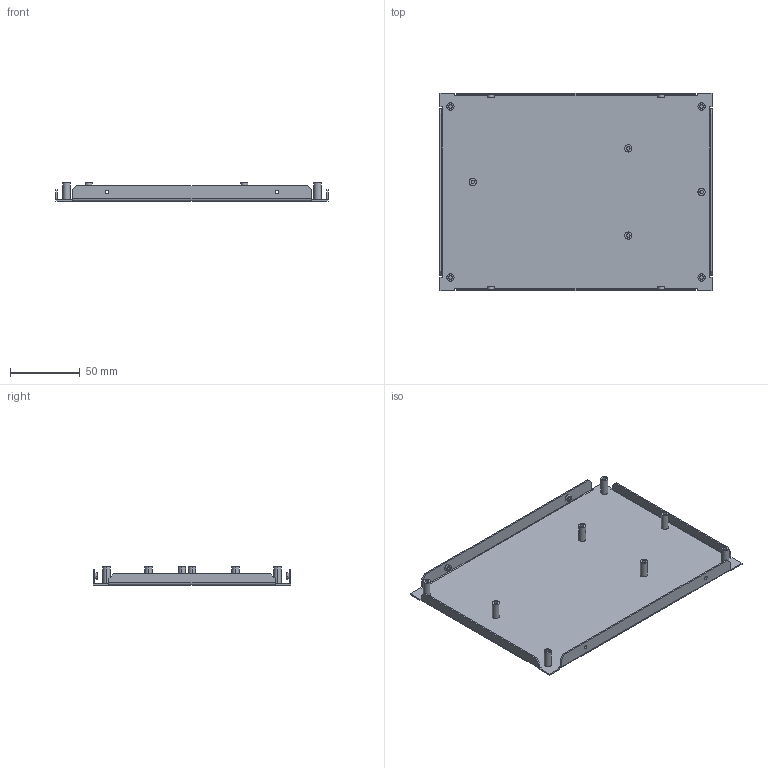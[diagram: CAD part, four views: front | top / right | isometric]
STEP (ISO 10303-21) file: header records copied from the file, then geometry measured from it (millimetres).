
FILE_DESCRIPTION((''),'2;1');
FILE_NAME('BT_COVER','2022-07-05T',('Administrator'),(''),'PRO/ENGINEER BY PARAMETRIC TECHNOLOGY CORPORATION, 2010280','PRO/ENGINEER BY PARAMETRIC TECHNOLOGY CORPORATION, 2010280','');
FILE_SCHEMA(('CONFIG_CONTROL_DESIGN'));
Length unit declared in the file: millimetre
Products named in the file (1): BT_COVER
Bounding box: 195 x 141.5 x 13 mm (x, y, z)
Volume: 34011.4 mm3; surface area: 67989 mm2
Topology: 1 solids, 1 shells, 130 faces, 308 edges, 200 vertices
Faces by surface type: plane 74, cylinder 56
Entity records: 3810 total; most frequent: DIRECTION 680, CARTESIAN_POINT 638, ORIENTED_EDGE 616, EDGE_CURVE 308, AXIS2_PLACEMENT_3D 242, VERTEX_POINT 200, VECTOR 196, LINE 196
